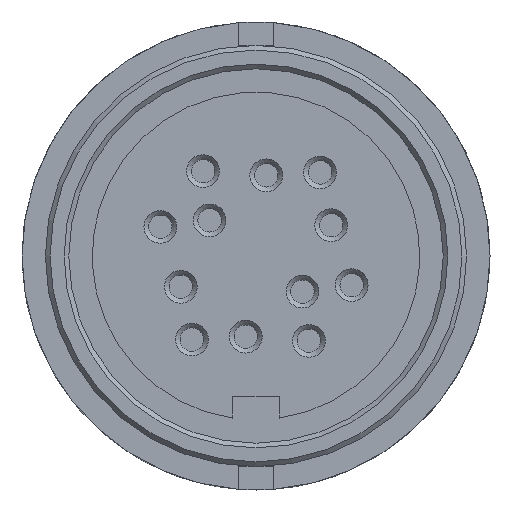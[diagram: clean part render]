
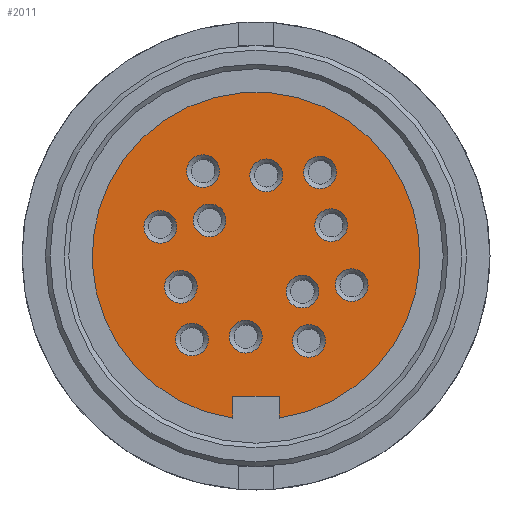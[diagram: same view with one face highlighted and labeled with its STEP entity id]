
A CAD part, front view. The second image highlights one B-rep face of the part: STEP entity #2011.
In plain terms, the highlighted planar face has unit normal (0, -1, 0).
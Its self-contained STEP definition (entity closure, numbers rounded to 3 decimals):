
#408=CARTESIAN_POINT('',(-1.,-12.5,-6.928));
#409=VERTEX_POINT('',#408);
#410=CARTESIAN_POINT('',(1.,-12.5,-6.928));
#411=VERTEX_POINT('',#410);
#412=CARTESIAN_POINT('',(0.0,-12.5,0.));
#413=DIRECTION('',(0.0,1.0,0.0));
#414=DIRECTION('',(0.0,0.0,1.0));
#415=AXIS2_PLACEMENT_3D('',#412,#413,#414);
#416=CIRCLE('',#415,7.);
#417=EDGE_CURVE('',#409,#411,#416,.T.);
#478=CARTESIAN_POINT('',(-2.039,-12.5,-3.57));
#479=VERTEX_POINT('',#478);
#480=CARTESIAN_POINT('',(-2.739,-12.5,-3.57));
#481=DIRECTION('',(0.0,-1.0,0.0));
#482=DIRECTION('',(-1.0,0.0,0.0));
#483=AXIS2_PLACEMENT_3D('',#480,#481,#482);
#484=CIRCLE('',#483,0.7);
#485=EDGE_CURVE('',#479,#479,#484,.T.);
#526=CARTESIAN_POINT('',(-1.56,-12.5,3.625));
#527=VERTEX_POINT('',#526);
#528=CARTESIAN_POINT('',(-2.26,-12.5,3.625));
#529=DIRECTION('',(0.0,-1.0,0.0));
#530=DIRECTION('',(-1.0,0.0,0.0));
#531=AXIS2_PLACEMENT_3D('',#528,#529,#530);
#532=CIRCLE('',#531,0.7);
#533=EDGE_CURVE('',#527,#527,#532,.T.);
#574=CARTESIAN_POINT('',(-3.387,-12.5,1.245));
#575=VERTEX_POINT('',#574);
#576=CARTESIAN_POINT('',(-4.087,-12.5,1.245));
#577=DIRECTION('',(0.0,-1.0,0.0));
#578=DIRECTION('',(-1.0,0.0,0.0));
#579=AXIS2_PLACEMENT_3D('',#576,#577,#578);
#580=CIRCLE('',#579,0.7);
#581=EDGE_CURVE('',#575,#575,#580,.T.);
#622=CARTESIAN_POINT('',(2.96,-12.5,-3.625));
#623=VERTEX_POINT('',#622);
#624=CARTESIAN_POINT('',(2.26,-12.5,-3.625));
#625=DIRECTION('',(0.0,-1.0,0.0));
#626=DIRECTION('',(-1.0,0.0,0.0));
#627=AXIS2_PLACEMENT_3D('',#624,#625,#626);
#628=CIRCLE('',#627,0.7);
#629=EDGE_CURVE('',#623,#623,#628,.T.);
#670=CARTESIAN_POINT('',(4.787,-12.5,-1.245));
#671=VERTEX_POINT('',#670);
#672=CARTESIAN_POINT('',(4.087,-12.5,-1.245));
#673=DIRECTION('',(0.0,-1.0,0.0));
#674=DIRECTION('',(-1.0,0.0,0.0));
#675=AXIS2_PLACEMENT_3D('',#672,#673,#674);
#676=CIRCLE('',#675,0.7);
#677=EDGE_CURVE('',#671,#671,#676,.T.);
#718=CARTESIAN_POINT('',(-2.515,-12.5,-1.315));
#719=VERTEX_POINT('',#718);
#720=CARTESIAN_POINT('',(-3.215,-12.5,-1.315));
#721=DIRECTION('',(0.0,-1.0,0.0));
#722=DIRECTION('',(-1.0,0.0,0.0));
#723=AXIS2_PLACEMENT_3D('',#720,#721,#722);
#724=CIRCLE('',#723,0.7);
#725=EDGE_CURVE('',#719,#719,#724,.T.);
#766=CARTESIAN_POINT('',(0.262,-12.5,-3.445));
#767=VERTEX_POINT('',#766);
#768=CARTESIAN_POINT('',(-0.438,-12.5,-3.445));
#769=DIRECTION('',(0.0,-1.0,0.0));
#770=DIRECTION('',(-1.0,0.0,0.0));
#771=AXIS2_PLACEMENT_3D('',#768,#769,#770);
#772=CIRCLE('',#771,0.7);
#773=EDGE_CURVE('',#767,#767,#772,.T.);
#814=CARTESIAN_POINT('',(2.683,-12.5,-1.522));
#815=VERTEX_POINT('',#814);
#816=CARTESIAN_POINT('',(1.983,-12.5,-1.522));
#817=DIRECTION('',(0.0,-1.0,0.0));
#818=DIRECTION('',(-1.0,0.0,0.0));
#819=AXIS2_PLACEMENT_3D('',#816,#817,#818);
#820=CIRCLE('',#819,0.7);
#821=EDGE_CURVE('',#815,#815,#820,.T.);
#862=CARTESIAN_POINT('',(-1.283,-12.5,1.522));
#863=VERTEX_POINT('',#862);
#864=CARTESIAN_POINT('',(-1.983,-12.5,1.522));
#865=DIRECTION('',(0.0,-1.0,0.0));
#866=DIRECTION('',(-1.0,0.0,0.0));
#867=AXIS2_PLACEMENT_3D('',#864,#865,#866);
#868=CIRCLE('',#867,0.7);
#869=EDGE_CURVE('',#863,#863,#868,.T.);
#910=CARTESIAN_POINT('',(3.439,-12.5,3.57));
#911=VERTEX_POINT('',#910);
#912=CARTESIAN_POINT('',(2.739,-12.5,3.57));
#913=DIRECTION('',(0.0,-1.0,0.0));
#914=DIRECTION('',(-1.0,0.0,0.0));
#915=AXIS2_PLACEMENT_3D('',#912,#913,#914);
#916=CIRCLE('',#915,0.7);
#917=EDGE_CURVE('',#911,#911,#916,.T.);
#958=CARTESIAN_POINT('',(1.138,-12.5,3.445));
#959=VERTEX_POINT('',#958);
#960=CARTESIAN_POINT('',(0.438,-12.5,3.445));
#961=DIRECTION('',(0.0,-1.0,0.0));
#962=DIRECTION('',(-1.0,0.0,0.0));
#963=AXIS2_PLACEMENT_3D('',#960,#961,#962);
#964=CIRCLE('',#963,0.7);
#965=EDGE_CURVE('',#959,#959,#964,.T.);
#1006=CARTESIAN_POINT('',(3.915,-12.5,1.315));
#1007=VERTEX_POINT('',#1006);
#1008=CARTESIAN_POINT('',(3.215,-12.5,1.315));
#1009=DIRECTION('',(0.0,-1.0,0.0));
#1010=DIRECTION('',(-1.0,0.0,0.0));
#1011=AXIS2_PLACEMENT_3D('',#1008,#1009,#1010);
#1012=CIRCLE('',#1011,0.7);
#1013=EDGE_CURVE('',#1007,#1007,#1012,.T.);
#1945=CARTESIAN_POINT('',(0.0,-12.5,3.5));
#1946=DIRECTION('',(0.0,-1.0,0.0));
#1947=DIRECTION('',(0.0,0.0,-1.0));
#1948=AXIS2_PLACEMENT_3D('',#1945,#1946,#1947);
#1949=PLANE('',#1948);
#1950=CARTESIAN_POINT('',(-1.,-12.5,-6.));
#1951=VERTEX_POINT('',#1950);
#1952=CARTESIAN_POINT('',(-1.,-12.5,-6.928));
#1953=DIRECTION('',(0.0,0.0,1.0));
#1954=VECTOR('',#1953,0.928);
#1955=LINE('',#1952,#1954);
#1956=EDGE_CURVE('',#409,#1951,#1955,.T.);
#1957=ORIENTED_EDGE('',*,*,#1956,.T.);
#1958=CARTESIAN_POINT('',(1.,-12.5,-6.));
#1959=VERTEX_POINT('',#1958);
#1960=CARTESIAN_POINT('',(-1.,-12.5,-6.));
#1961=DIRECTION('',(1.0,0.0,0.0));
#1962=VECTOR('',#1961,2.);
#1963=LINE('',#1960,#1962);
#1964=EDGE_CURVE('',#1951,#1959,#1963,.T.);
#1965=ORIENTED_EDGE('',*,*,#1964,.T.);
#1966=CARTESIAN_POINT('',(1.,-12.5,-6.));
#1967=DIRECTION('',(0.0,0.0,-1.0));
#1968=VECTOR('',#1967,0.928);
#1969=LINE('',#1966,#1968);
#1970=EDGE_CURVE('',#1959,#411,#1969,.T.);
#1971=ORIENTED_EDGE('',*,*,#1970,.T.);
#1972=ORIENTED_EDGE('',*,*,#417,.F.);
#1973=EDGE_LOOP('',(#1957,#1965,#1971,#1972));
#1974=FACE_OUTER_BOUND('',#1973,.T.);
#1975=ORIENTED_EDGE('',*,*,#965,.F.);
#1976=EDGE_LOOP('',(#1975));
#1977=FACE_BOUND('',#1976,.T.);
#1978=ORIENTED_EDGE('',*,*,#869,.F.);
#1979=EDGE_LOOP('',(#1978));
#1980=FACE_BOUND('',#1979,.T.);
#1981=ORIENTED_EDGE('',*,*,#773,.F.);
#1982=EDGE_LOOP('',(#1981));
#1983=FACE_BOUND('',#1982,.T.);
#1984=ORIENTED_EDGE('',*,*,#677,.F.);
#1985=EDGE_LOOP('',(#1984));
#1986=FACE_BOUND('',#1985,.T.);
#1987=ORIENTED_EDGE('',*,*,#581,.F.);
#1988=EDGE_LOOP('',(#1987));
#1989=FACE_BOUND('',#1988,.T.);
#1990=ORIENTED_EDGE('',*,*,#485,.F.);
#1991=EDGE_LOOP('',(#1990));
#1992=FACE_BOUND('',#1991,.T.);
#1993=ORIENTED_EDGE('',*,*,#533,.F.);
#1994=EDGE_LOOP('',(#1993));
#1995=FACE_BOUND('',#1994,.T.);
#1996=ORIENTED_EDGE('',*,*,#629,.F.);
#1997=EDGE_LOOP('',(#1996));
#1998=FACE_BOUND('',#1997,.T.);
#1999=ORIENTED_EDGE('',*,*,#725,.F.);
#2000=EDGE_LOOP('',(#1999));
#2001=FACE_BOUND('',#2000,.T.);
#2002=ORIENTED_EDGE('',*,*,#821,.F.);
#2003=EDGE_LOOP('',(#2002));
#2004=FACE_BOUND('',#2003,.T.);
#2005=ORIENTED_EDGE('',*,*,#917,.F.);
#2006=EDGE_LOOP('',(#2005));
#2007=FACE_BOUND('',#2006,.T.);
#2008=ORIENTED_EDGE('',*,*,#1013,.F.);
#2009=EDGE_LOOP('',(#2008));
#2010=FACE_BOUND('',#2009,.T.);
#2011=ADVANCED_FACE('',(#1974,#1977,#1980,#1983,#1986,#1989,#1992,#1995,#1998,#2001,#2004,#2007,#2010),#1949,.T.);
